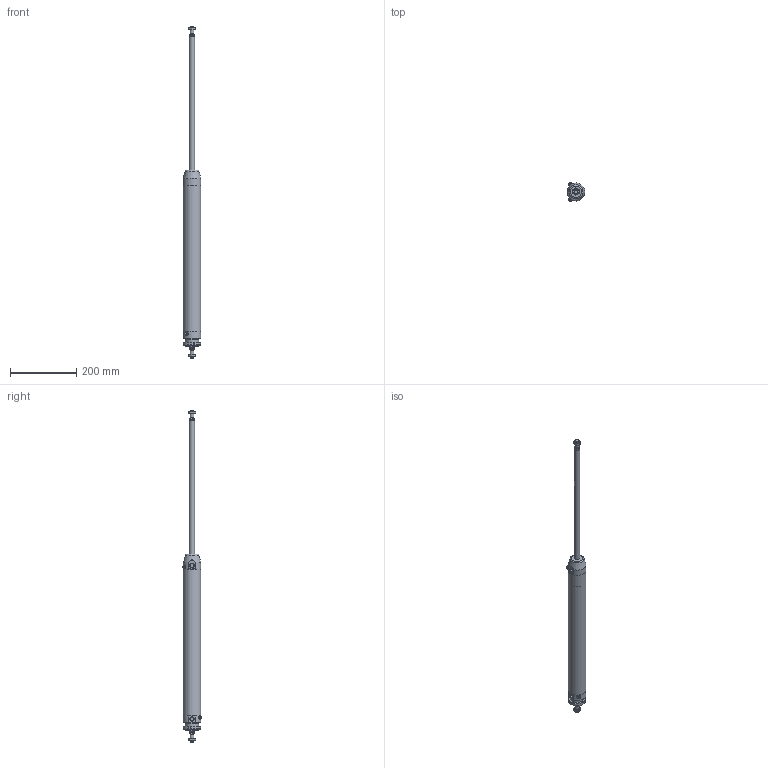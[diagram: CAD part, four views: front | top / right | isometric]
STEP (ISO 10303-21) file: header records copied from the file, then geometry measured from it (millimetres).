
FILE_DESCRIPTION(/* description */ (''),/* implementation_level */ '2;1');
FILE_NAME(/* name */ 'I:\Area Tecnica\Documenti\A-Manieri\_Inventor\12X\12X#T_###_####_#_#\12XDT_050_0400_#_#.stp',/* time_stamp */ '2015-05-13T09:09:37+02:00',/* author */ ('maniean1'),/* organization */ ('Pneumax S.p.A.'),/* preprocessor_version */ 'ST-DEVELOPER v15.2',/* originating_system */ 'Autodesk Inventor 2014',/* authorisation */ '');
FILE_SCHEMA (('AUTOMOTIVE_DESIGN { 1 0 10303 214 3 1 1 }'));
Length unit declared in the file: millimetre
Products named in the file (7): C1250_619-0400; 12X50_606; SP12X50_0400; 12X_50_11; 12X50_614; G12X_050_05; 12XDT_050_0400_#_#
Bounding box: 54 x 57.75 x 1002 mm (x, y, z)
Volume: 576007.8 mm3; surface area: 235620.9 mm2
Topology: 7 solids, 7 shells, 125 faces, 280 edges, 180 vertices
Faces by surface type: plane 66, cylinder 30, cone 26, torus 3
Full cylindrical faces by diameter (mm): 5 x2, 10.2 x2, 11 x2, 11.4 x2, 12 x4, 14 x2, 15.6 x2, 16 x2, 38.2 x1, 40 x3, 50 x2, 54 x3
Entity records: 3058 total; most frequent: CARTESIAN_POINT 614, DIRECTION 513, ORIENTED_EDGE 402, AXIS2_PLACEMENT_3D 219, EDGE_CURVE 201, EDGE_LOOP 178, VERTEX_POINT 153, ADVANCED_FACE 114
